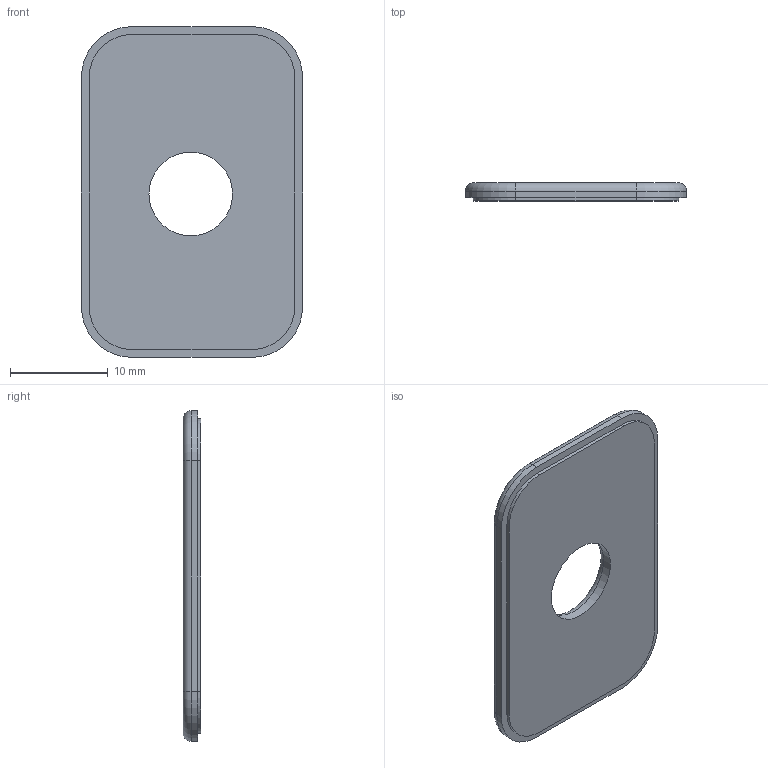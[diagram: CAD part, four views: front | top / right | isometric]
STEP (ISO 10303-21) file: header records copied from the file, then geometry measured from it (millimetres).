
FILE_DESCRIPTION(/* description */ ('STEP AP242 Edition 2','CAx-IF Rec.Pracs.---Representation and Presentation of Product Manufacturing Information (PMI)---4.0---2014-10-13','CAx-IF Rec.Pracs.---3D Tessellated Geometry---0.4---2014-09-14','2;1','CAx-IF Rec.Pracs.---User Defined Attributes---1.5---2016-08-15'),/* implementation_level */ '2;1');
FILE_NAME(/* name */ 'Assembly 1 - Part 13',/* time_stamp */ '2026-10-02T23:42:51Z',/* author */ (''),/* organization */ (''),/* preprocessor_version */ 'ST-DEVELOPER v20',/* originating_system */ 'ONSHAPE BY PTC INC, 1.221',/* authorisation */ ' ');
FILE_SCHEMA (('AP242_MANAGED_MODEL_BASED_3D_ENGINEERING_MIM_LF { 1 0 10303 442 3 1 4 }'));
Length unit declared in the file: metre
Products named in the file (1): Part 13
Bounding box: 22.6 x 1.83 x 33.82 mm (x, y, z)
Volume: 1205.4 mm3; surface area: 1558.9 mm2
Topology: 1 solids, 1 shells, 29 faces, 69 edges, 43 vertices
Faces by surface type: cylinder 13, plane 11, torus 5
Full cylindrical faces by diameter (mm): 8.544 x1
Entity records: 858 total; most frequent: DIRECTION 158, CARTESIAN_POINT 140, ORIENTED_EDGE 134, EDGE_CURVE 67, AXIS2_PLACEMENT_3D 61, VERTEX_POINT 43, LINE 36, VECTOR 36
